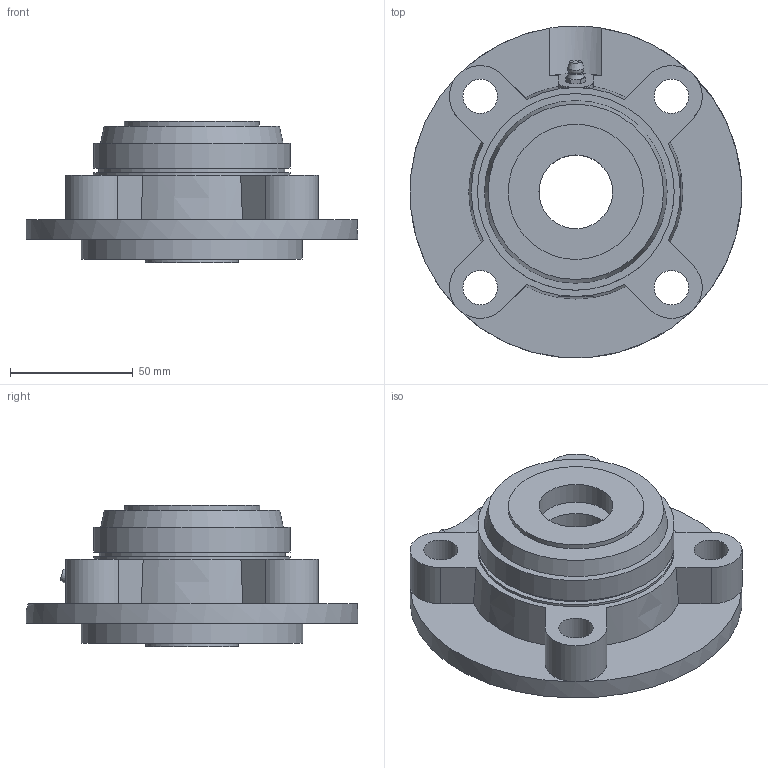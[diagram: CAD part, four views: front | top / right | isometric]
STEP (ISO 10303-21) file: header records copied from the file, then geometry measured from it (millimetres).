
FILE_DESCRIPTION((''),'2;1');
FILE_NAME('\\Ts-tgl068\j-cad-d-base\00.3DCADデータ作成フォルダ\02.フランジ形\UKFC200C(E)\UKFC207C+H.stp','2014-05-22T07:49:46',('btec_1106_2'),(''),'Autodesk Inventor 2012','Autodesk Inventor 2012','');
FILE_SCHEMA(('AUTOMOTIVE_DESIGN { 1 0 10303 214 1 1 1 1 }'));
Length unit declared in the file: millimetre
Products named in the file (5): UKFC200C+H; FC207C; UK207; GU1; 207CPA30
Assembly tree (4 placements, depth 2):
  UKFC200C+H
    FC207C
    UK207
    GU1
    207CPA30
Bounding box: 134.84 x 134.96 x 57.5 mm (x, y, z)
Volume: 254833.5 mm3; surface area: 90160.3 mm2
Topology: 4 solids, 4 shells, 204 faces, 517 edges, 337 vertices
Faces by surface type: plane 90, cylinder 55, cone 51, sphere 4, bspline 2, torus 2
Full cylindrical faces by diameter (mm): 5.359 x1, 6.35 x1, 14 x4, 30 x2, 48 x2, 55 x2, 74 x1, 75.6 x1, 78.4 x2, 80 x3, 90 x1, 135 x1
Entity records: 6072 total; most frequent: CARTESIAN_POINT 1373, ORIENTED_EDGE 948, DIRECTION 945, EDGE_CURVE 474, AXIS2_PLACEMENT_3D 394, VERTEX_POINT 324, EDGE_LOOP 269, FACE_OUTER_BOUND 204
